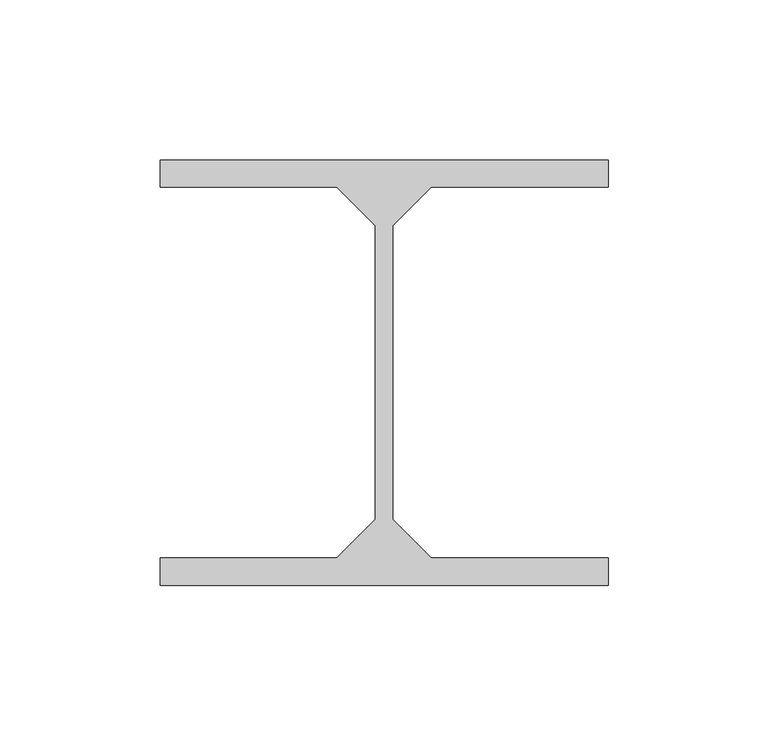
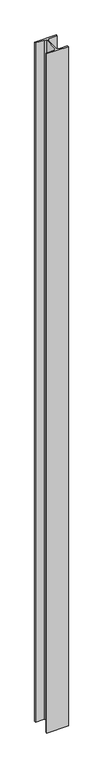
"""IFC4 building model written with IfcOpenShell, lengths in millimetres: beam geometry, Potelet 26076 : Potelet 26076."""

from ifc_helpers import new_model, si_unit, frame, origin, place, context, project, spatial, polyline, outline, extrude, source, transform, mapped, element, save


def beam_3418ffec(model_context):
    return source(origin(), model_context, "Body", "SweptSolid", [
        extrude(outline(polyline([(15249.9999999, -12742.0), (15249.9999999, -12733.5), (15389.9999999, -12733.5), (15389.9999999, -12742.0), (15334.7499999, -12742.0), (15322.7499999, -12754.0), (15322.7499999, -12846.0), (15334.7499999, -12858.0), (15389.9999999, -12858.0), (15389.9999999, -12866.5), (15249.9999999, -12866.5), (15249.9999999, -12858.0), (15305.2499999, -12858.0), (15317.2499999, -12846.0), (15317.2499999, -12754.0), (15305.2499999, -12742.0), (15249.9999999, -12742.0)])), frame((0.0, 0.0, 7410.0), z_axis=(0.0, 0.0, 1.0), x_axis=(1.0, 0.0, 0.0)), (0.0, 0.0, 1.0), 4627.258392),
    ])


if __name__ == "__main__":
    model = new_model("IFC4")
    model_context = context("Model", 3, world=origin())
    ifc_project = project(units=[si_unit("LENGTHUNIT", "METRE", prefix="MILLI")], contexts=[model_context])
    site = spatial("IfcSite", under=ifc_project)
    building = spatial("IfcBuilding", under=site)
    placement = place(None, origin())
    beam_shape = beam_3418ffec(model_context)
    element("IfcBeam", 1, ObjectType="Potelet 26076 : Potelet 26076", at=placement, inside=building, context=model_context, shape_type="MappedRepresentation", body=[
        mapped(beam_shape, transform((0.0, 0.0, 0.0), x_axis=(1.0, 0.0, 0.0), y_axis=(0.0, 1.0, 0.0), z_axis=(0.0, 0.0, 1.0))),
    ])
    save(model, "model.ifc")
